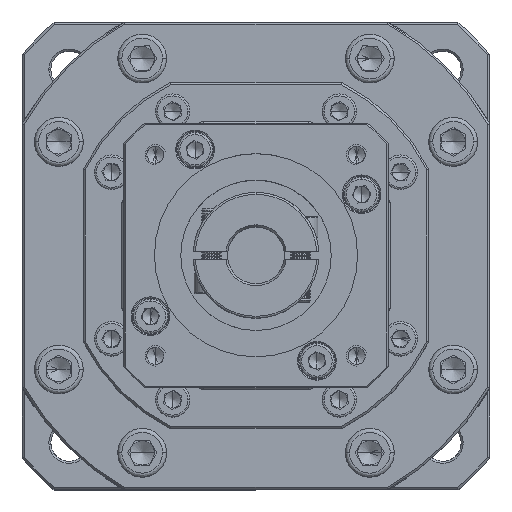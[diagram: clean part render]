
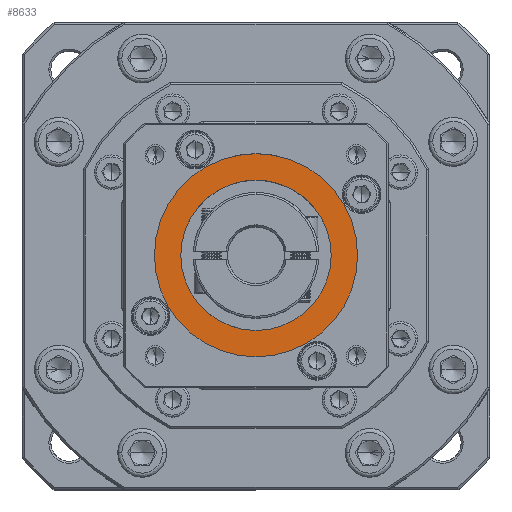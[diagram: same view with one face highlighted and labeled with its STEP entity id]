
A CAD part, top view. The second image highlights one B-rep face of the part: STEP entity #8633.
In plain terms, the highlighted planar face has unit normal (0, 0, 1).
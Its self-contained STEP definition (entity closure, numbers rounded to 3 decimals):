
#5120 = EDGE_CURVE ( 'NONE', #143435, #111459, #105595, .T. ) ;
#7203 = DIRECTION ( 'NONE',  ( 0., 1., 0. ) ) ;
#8633 = ADVANCED_FACE ( 'NONE', ( #122883, #114271 ), #103201, .T. ) ;
#20177 = ORIENTED_EDGE ( 'NONE', *, *, #137771, .T. ) ;
#20657 = AXIS2_PLACEMENT_3D ( 'NONE', #122008, #120617, #33988 ) ;
#22725 = EDGE_CURVE ( 'NONE', #95379, #113248, #69429, .T. ) ;
#23388 = ORIENTED_EDGE ( 'NONE', *, *, #22725, .T. ) ;
#24675 = DIRECTION ( 'NONE',  ( 0., 0., -1. ) ) ;
#28650 = DIRECTION ( 'NONE',  ( 0., 1., 0. ) ) ;
#33988 = DIRECTION ( 'NONE',  ( 0., 1., 0. ) ) ;
#39915 = CARTESIAN_POINT ( 'NONE',  ( 81.745, 66.792, -21.348 ) ) ;
#39967 = CIRCLE ( 'NONE', #139774, 18.5 ) ;
#40130 = EDGE_LOOP ( 'NONE', ( #116544, #20177 ) ) ;
#49307 = DIRECTION ( 'NONE',  ( 0., 1., 0. ) ) ;
#51815 = DIRECTION ( 'NONE',  ( 0., 0., 1. ) ) ;
#52794 = CARTESIAN_POINT ( 'NONE',  ( 81.745, 85.292, -21.348 ) ) ;
#57053 = EDGE_CURVE ( 'NONE', #113248, #95379, #39967, .T. ) ;
#65127 = EDGE_LOOP ( 'NONE', ( #23388, #107080 ) ) ;
#69429 = CIRCLE ( 'NONE', #20657, 18.5 ) ;
#90495 = CARTESIAN_POINT ( 'NONE',  ( 81.745, 85.292, -21.348 ) ) ;
#93360 = CARTESIAN_POINT ( 'NONE',  ( 81.745, 60.292, -21.348 ) ) ;
#93378 = DIRECTION ( 'NONE',  ( 0., 0., 1. ) ) ;
#94960 = DIRECTION ( 'NONE',  ( 0., 0., 1. ) ) ;
#95379 = VERTEX_POINT ( 'NONE', #103267 ) ;
#100200 = DIRECTION ( 'NONE',  ( 0., 1., 0. ) ) ;
#101065 = CIRCLE ( 'NONE', #110312, 25. ) ;
#103201 = PLANE ( 'NONE',  #133354 ) ;
#103267 = CARTESIAN_POINT ( 'NONE',  ( 81.745, 103.792, -21.348 ) ) ;
#104496 = CARTESIAN_POINT ( 'NONE',  ( 81.745, 85.292, -21.348 ) ) ;
#105103 = CARTESIAN_POINT ( 'NONE',  ( 81.745, 85.292, -21.348 ) ) ;
#105595 = CIRCLE ( 'NONE', #131918, 25. ) ;
#107080 = ORIENTED_EDGE ( 'NONE', *, *, #57053, .T. ) ;
#110312 = AXIS2_PLACEMENT_3D ( 'NONE', #104496, #93378, #49307 ) ;
#111459 = VERTEX_POINT ( 'NONE', #93360 ) ;
#113248 = VERTEX_POINT ( 'NONE', #39915 ) ;
#114271 = FACE_BOUND ( 'NONE', #65127, .T. ) ;
#116544 = ORIENTED_EDGE ( 'NONE', *, *, #5120, .T. ) ;
#120617 = DIRECTION ( 'NONE',  ( 0., 0., -1. ) ) ;
#122008 = CARTESIAN_POINT ( 'NONE',  ( 81.745, 85.292, -21.348 ) ) ;
#122883 = FACE_OUTER_BOUND ( 'NONE', #40130, .T. ) ;
#131918 = AXIS2_PLACEMENT_3D ( 'NONE', #52794, #51815, #7203 ) ;
#133354 = AXIS2_PLACEMENT_3D ( 'NONE', #105103, #94960, #28650 ) ;
#134039 = CARTESIAN_POINT ( 'NONE',  ( 81.745, 110.292, -21.348 ) ) ;
#137771 = EDGE_CURVE ( 'NONE', #111459, #143435, #101065, .T. ) ;
#139774 = AXIS2_PLACEMENT_3D ( 'NONE', #90495, #24675, #100200 ) ;
#143435 = VERTEX_POINT ( 'NONE', #134039 ) ;
